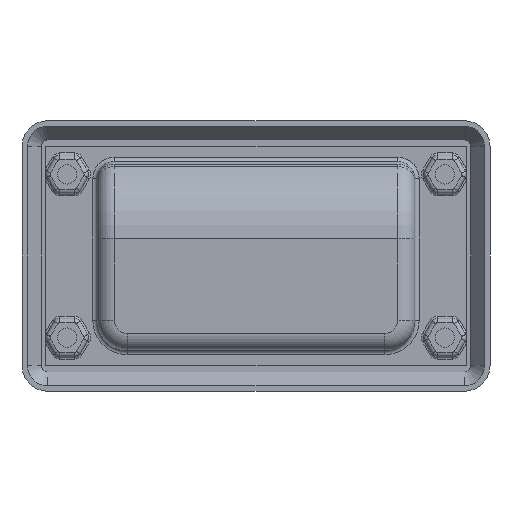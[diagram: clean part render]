
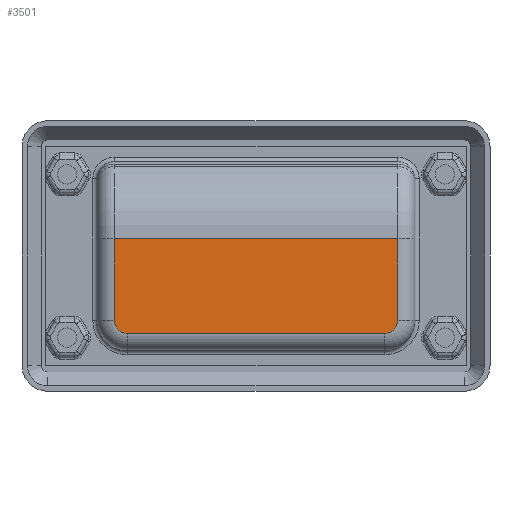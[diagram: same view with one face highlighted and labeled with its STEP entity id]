
A CAD part, front view. The second image highlights one B-rep face of the part: STEP entity #3501.
In plain terms, the highlighted planar face has unit normal (0, -1, 0) as drawn and (0, 1, 0) by its records, which use the part's own axes.
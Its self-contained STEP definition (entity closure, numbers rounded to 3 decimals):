
#9 = DIRECTION ( 'NONE',  ( 1., 0., 0. ) ) ;
#28 = DIRECTION ( 'NONE',  ( 1., 0., 0. ) ) ;
#47 = CARTESIAN_POINT ( 'NONE',  ( 33., 17., -4. ) ) ;
#387 = DIRECTION ( 'NONE',  ( 0., 0., 1. ) ) ;
#595 = EDGE_CURVE ( 'NONE', #6950, #7038, #12033, .T. ) ;
#692 = CARTESIAN_POINT ( 'NONE',  ( -30., 17., 18. ) ) ;
#865 = CIRCLE ( 'NONE', #2978, 3. ) ;
#1076 = VERTEX_POINT ( 'NONE', #6142 ) ;
#1396 = DIRECTION ( 'NONE',  ( 0., 0., -1. ) ) ;
#1502 = CARTESIAN_POINT ( 'NONE',  ( 30., 17., 15. ) ) ;
#1836 = LINE ( 'NONE', #9522, #11082 ) ;
#2174 = AXIS2_PLACEMENT_3D ( 'NONE', #10094, #4386, #11068 ) ;
#2475 = DIRECTION ( 'NONE',  ( 0., 0., 1. ) ) ;
#2611 = VERTEX_POINT ( 'NONE', #9921 ) ;
#2794 = VERTEX_POINT ( 'NONE', #692 ) ;
#2868 = ORIENTED_EDGE ( 'NONE', *, *, #595, .F. ) ;
#2978 = AXIS2_PLACEMENT_3D ( 'NONE', #1502, #8129, #2475 ) ;
#3501 = ADVANCED_FACE ( 'NONE', ( #10778 ), #5140, .T. ) ;
#3591 = EDGE_CURVE ( 'NONE', #2611, #2794, #7346, .T. ) ;
#3738 = CARTESIAN_POINT ( 'NONE',  ( -33., 17., -4. ) ) ;
#4049 = CARTESIAN_POINT ( 'NONE',  ( 30., 17., 18. ) ) ;
#4386 = DIRECTION ( 'NONE',  ( 0., 1., 0. ) ) ;
#4760 = EDGE_CURVE ( 'NONE', #2794, #12060, #1836, .T. ) ;
#5127 = ORIENTED_EDGE ( 'NONE', *, *, #4760, .T. ) ;
#5140 = PLANE ( 'NONE',  #10068 ) ;
#5264 = LINE ( 'NONE', #11393, #7202 ) ;
#6078 = DIRECTION ( 'NONE',  ( 0., 1., 0. ) ) ;
#6142 = CARTESIAN_POINT ( 'NONE',  ( 33., 17., 15. ) ) ;
#6386 = EDGE_CURVE ( 'NONE', #1076, #7038, #11778, .T. ) ;
#6569 = CARTESIAN_POINT ( 'NONE',  ( 59., 17., -4. ) ) ;
#6683 = ORIENTED_EDGE ( 'NONE', *, *, #3591, .T. ) ;
#6686 = VECTOR ( 'NONE', #1396, 1000. ) ;
#6950 = VERTEX_POINT ( 'NONE', #3738 ) ;
#7038 = VERTEX_POINT ( 'NONE', #47 ) ;
#7202 = VECTOR ( 'NONE', #10443, 1000. ) ;
#7346 = CIRCLE ( 'NONE', #2174, 3. ) ;
#7903 = CARTESIAN_POINT ( 'NONE',  ( 0., 17., 0. ) ) ;
#8025 = CARTESIAN_POINT ( 'NONE',  ( 33., 17., -4. ) ) ;
#8127 = EDGE_CURVE ( 'NONE', #6950, #2611, #5264, .T. ) ;
#8129 = DIRECTION ( 'NONE',  ( 0., 1., 0. ) ) ;
#9522 = CARTESIAN_POINT ( 'NONE',  ( 37., 17., 18. ) ) ;
#9921 = CARTESIAN_POINT ( 'NONE',  ( -33., 17., 15. ) ) ;
#10068 = AXIS2_PLACEMENT_3D ( 'NONE', #7903, #6078, #387 ) ;
#10094 = CARTESIAN_POINT ( 'NONE',  ( -30., 17., 15. ) ) ;
#10443 = DIRECTION ( 'NONE',  ( 0., 0., 1. ) ) ;
#10687 = ORIENTED_EDGE ( 'NONE', *, *, #6386, .T. ) ;
#10778 = FACE_OUTER_BOUND ( 'NONE', #11364, .T. ) ;
#11068 = DIRECTION ( 'NONE',  ( 0., 0., 1. ) ) ;
#11082 = VECTOR ( 'NONE', #28, 1000. ) ;
#11364 = EDGE_LOOP ( 'NONE', ( #5127, #12206, #10687, #2868, #11748, #6683 ) ) ;
#11393 = CARTESIAN_POINT ( 'NONE',  ( -33., 17., 15. ) ) ;
#11427 = VECTOR ( 'NONE', #9, 1000. ) ;
#11748 = ORIENTED_EDGE ( 'NONE', *, *, #8127, .T. ) ;
#11778 = LINE ( 'NONE', #8025, #6686 ) ;
#12033 = LINE ( 'NONE', #6569, #11427 ) ;
#12060 = VERTEX_POINT ( 'NONE', #4049 ) ;
#12206 = ORIENTED_EDGE ( 'NONE', *, *, #12208, .T. ) ;
#12208 = EDGE_CURVE ( 'NONE', #12060, #1076, #865, .T. ) ;
